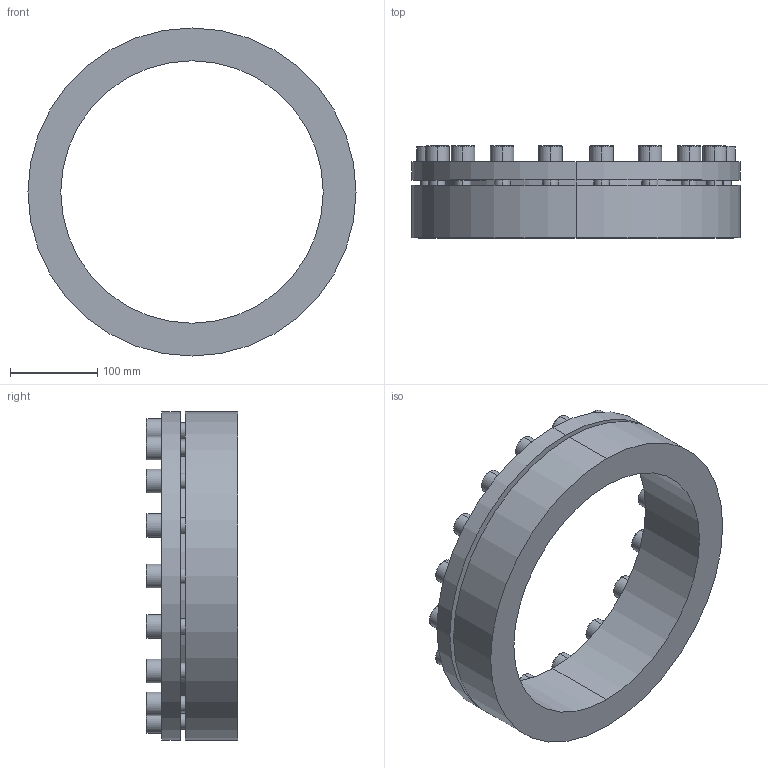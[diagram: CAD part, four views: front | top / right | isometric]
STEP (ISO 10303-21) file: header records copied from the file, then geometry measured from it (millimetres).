
FILE_DESCRIPTION (( 'STEP AP203' ), '1' );
FILE_NAME ('PL-H3 300-375.STEP', '2021-10-23T01:12:30', ( '' ), ( '' ), 'SwSTEP 2.0', 'SolidWorks 2018', '' );
FILE_SCHEMA (( 'CONFIG_CONTROL_DESIGN' ));
Length unit declared in the file: millimetre
Products named in the file (1): PL-H3 300-375
Bounding box: 375 x 105 x 375 mm (x, y, z)
Volume: 3449265.4 mm3; surface area: 359533.9 mm2
Topology: 1 solids, 1 shells, 264 faces, 636 edges, 412 vertices
Faces by surface type: plane 148, cylinder 80, torus 36
Entity records: 7857 total; most frequent: DIRECTION 1398, CARTESIAN_POINT 1313, ORIENTED_EDGE 1272, EDGE_CURVE 636, AXIS2_PLACEMENT_3D 497, VERTEX_POINT 412, LINE 404, VECTOR 404
